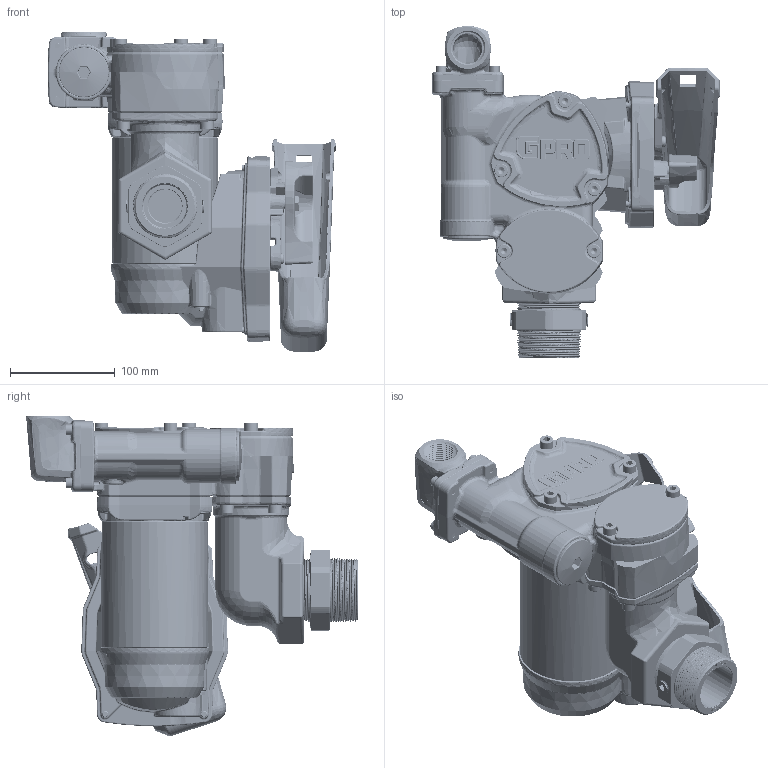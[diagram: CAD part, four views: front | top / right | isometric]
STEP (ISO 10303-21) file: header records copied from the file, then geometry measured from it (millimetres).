
FILE_DESCRIPTION(/* description */ (''),/* implementation_level */ '2;1');
FILE_NAME(/* name */ 'V25-024_WEB.stp',/* time_stamp */ '2024-05-24T10:00:29-05:00',/* author */ ('gdanhar'),/* organization */ (''),/* preprocessor_version */ 'ST-DEVELOPER v20',/* originating_system */ 'Autodesk Inventor 2024',/* authorisation */ '');
FILE_SCHEMA (('AUTOMOTIVE_DESIGN { 1 0 10303 214 3 1 1 }'));
Length unit declared in the file: inch
Products named in the file (1): V25-024_WEB
Bounding box: 274.94 x 316.24 x 305.78 mm (x, y, z)
Volume: 4721682.6 mm3; surface area: 471150.1 mm2
Topology: 3 solids, 13 shells, 8721 faces, 21578 edges, 13029 vertices
Faces by surface type: bspline 2973, plane 2569, cylinder 1632, torus 769, cone 540, sphere 238
Full cylindrical faces by diameter (mm): 2.184 x2, 3.175 x1, 3.68 x1, 4.826 x1, 4.978 x9, 5 x1, 5.004 x2, 5.842 x6, 6 x10, 6.35 x2, 6.756 x1, 6.985 x1, 7.806 x4, 8 x2, 9.487 x2, 9.525 x6, 9.55 x1, 9.906 x1, 10 x10, 10.5 x2, 10.516 x1, 11.125 x4, 12 x1, 12.706 x1, 13 x13, 17.475 x1, 26.67 x1, 30.291 x10, 36.932 x1, 41 x1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
Entity records: 438598 total; most frequent: CARTESIAN_POINT 240815, ORIENTED_EDGE 42872, DIRECTION 33827, EDGE_CURVE 21436, VERTEX_POINT 13021, AXIS2_PLACEMENT_3D 12588, EDGE_LOOP 9093, FACE_OUTER_BOUND 8718
